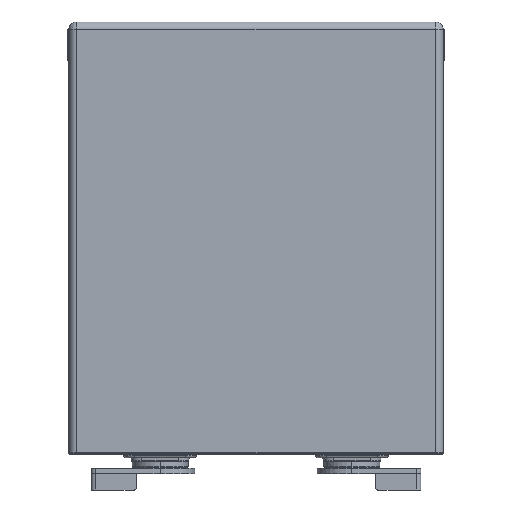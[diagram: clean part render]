
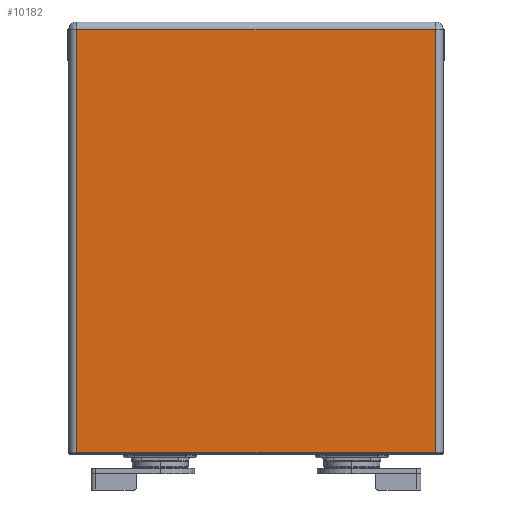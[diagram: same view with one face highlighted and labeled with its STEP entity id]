
A CAD part, front view. The second image highlights one B-rep face of the part: STEP entity #10182.
In plain terms, the highlighted planar face has unit normal (0, -1, 0).
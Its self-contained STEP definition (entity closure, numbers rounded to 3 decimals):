
#1798=DIRECTION('',(1.,0.,0.));
#1799=VECTOR('',#1798,166.2);
#1800=CARTESIAN_POINT('',(-83.1,-35.8,-0.1));
#1801=LINE('',#1800,#1799);
#2452=DIRECTION('',(0.,0.,-1.));
#2453=VECTOR('',#2452,196.4);
#2454=CARTESIAN_POINT('',(-83.1,-35.8,196.3));
#2455=LINE('',#2454,#2453);
#2479=DIRECTION('',(-1.,0.,0.));
#2480=VECTOR('',#2479,166.2);
#2481=CARTESIAN_POINT('',(83.1,-35.8,196.3));
#2482=LINE('',#2481,#2480);
#2487=DIRECTION('',(0.,0.,1.));
#2488=VECTOR('',#2487,196.4);
#2489=CARTESIAN_POINT('',(83.1,-35.8,-0.1));
#2490=LINE('',#2489,#2488);
#6026=CARTESIAN_POINT('',(-83.1,-35.8,-0.1));
#6027=VERTEX_POINT('',#6026);
#6028=CARTESIAN_POINT('',(83.1,-35.8,-0.1));
#6029=VERTEX_POINT('',#6028);
#6116=CARTESIAN_POINT('',(83.1,-35.8,196.3));
#6117=VERTEX_POINT('',#6116);
#6204=CARTESIAN_POINT('',(-83.1,-35.8,196.3));
#6205=VERTEX_POINT('',#6204);
#10170=CARTESIAN_POINT('',(0.,-35.8,98.1));
#10171=DIRECTION('',(0.,1.,0.));
#10172=DIRECTION('',(1.,0.,0.));
#10173=AXIS2_PLACEMENT_3D('',#10170,#10171,#10172);
#10174=PLANE('',#10173);
#10175=ORIENTED_EDGE('',*,*,#10164,.F.);
#10177=ORIENTED_EDGE('',*,*,#10176,.F.);
#10178=ORIENTED_EDGE('',*,*,#9081,.F.);
#10179=ORIENTED_EDGE('',*,*,#10125,.F.);
#10180=EDGE_LOOP('',(#10175,#10177,#10178,#10179));
#10181=FACE_OUTER_BOUND('',#10180,.F.);
#10182=ADVANCED_FACE('',(#10181),#10174,.F.);
#9081=EDGE_CURVE('',#6027,#6029,#1801,.T.);
#10125=EDGE_CURVE('',#6205,#6027,#2455,.T.);
#10164=EDGE_CURVE('',#6117,#6205,#2482,.T.);
#10176=EDGE_CURVE('',#6029,#6117,#2490,.T.);
